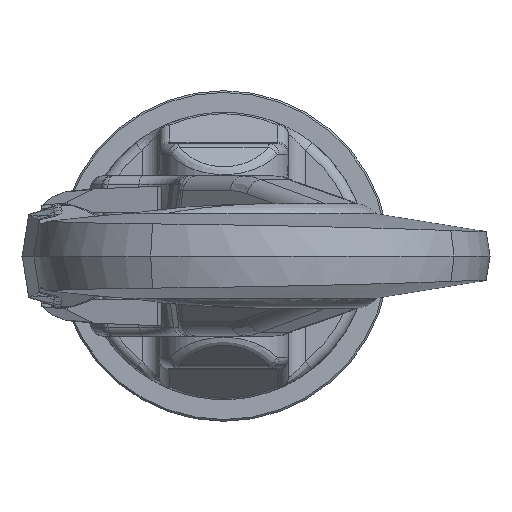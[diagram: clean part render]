
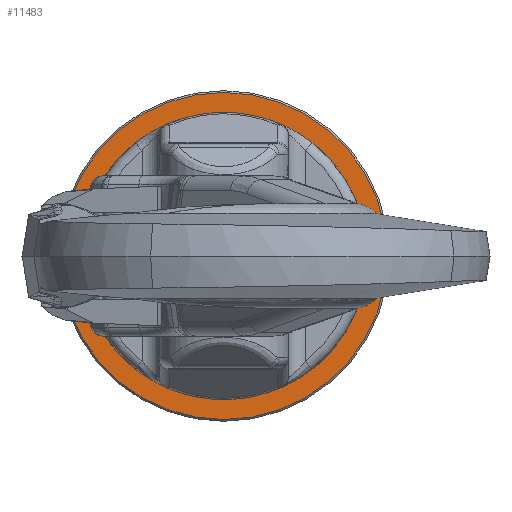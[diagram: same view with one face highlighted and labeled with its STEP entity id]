
A CAD part, left-side view. The second image highlights one B-rep face of the part: STEP entity #11483.
In plain terms, the highlighted planar face has unit normal (-1, 0, 0).
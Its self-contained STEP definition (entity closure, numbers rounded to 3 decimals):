
#11356=CARTESIAN_POINT('',(0.,0.,0.));
#11357=DIRECTION('',(-1.,0.,0.));
#11358=DIRECTION('',(0.,1.,0.));
#11359=AXIS2_PLACEMENT_3D('',#11356,#11357,#11358);
#11361=CARTESIAN_POINT('',(0.,0.,0.));
#11362=DIRECTION('',(-1.,0.,0.));
#11363=DIRECTION('',(0.,-1.,0.));
#11364=AXIS2_PLACEMENT_3D('',#11361,#11362,#11363);
#11464=CARTESIAN_POINT('',(0.,47.,0.));
#11465=CARTESIAN_POINT('',(0.,-47.,0.));
#11466=VERTEX_POINT('',#11464);
#11467=VERTEX_POINT('',#11465);
#11472=CARTESIAN_POINT('',(0.,0.,0.));
#11473=DIRECTION('',(1.,0.,0.));
#11474=DIRECTION('',(0.,1.,0.));
#11475=AXIS2_PLACEMENT_3D('',#11472,#11473,#11474);
#11476=PLANE('',#11475);
#11478=ORIENTED_EDGE('',*,*,#11477,.F.);
#11480=ORIENTED_EDGE('',*,*,#11479,.F.);
#11481=EDGE_LOOP('',(#11478,#11480));
#11482=FACE_OUTER_BOUND('',#11481,.F.);
#11483=ADVANCED_FACE('',(#11482),#11476,.F.);
#11360=CIRCLE('',#11359,47.);
#11365=CIRCLE('',#11364,47.);
#11477=EDGE_CURVE('',#11466,#11467,#11360,.T.);
#11479=EDGE_CURVE('',#11467,#11466,#11365,.T.);
